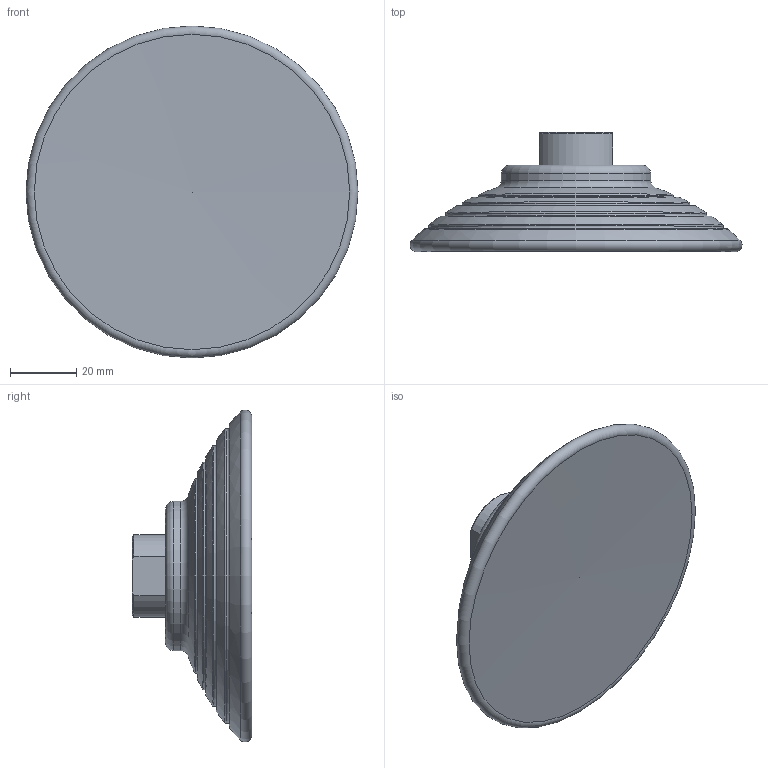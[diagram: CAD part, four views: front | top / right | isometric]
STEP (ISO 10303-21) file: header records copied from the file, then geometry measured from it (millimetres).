
FILE_DESCRIPTION((''),'2;1');
FILE_NAME('I:\Fipa\KD2\103.100.062\103.100.062_Kd.stp','2013-08-27T22:23:29',('user'),(''),'Autodesk Inventor 2012','Autodesk Inventor 2012','');
FILE_SCHEMA(('AUTOMOTIVE_DESIGN { 1 0 10303 214 1 1 1 1 }'));
Length unit declared in the file: millimetre
Products named in the file (3): 103.100.062_Kd; 103.100.062 - Elastomer_Kd; Fitting_Kd
Assembly tree (2 placements, depth 2):
  103.100.062_Kd
    103.100.062 - Elastomer_Kd
    Fitting_Kd
Bounding box: 99.99 x 35.99 x 99.99 mm (x, y, z)
Volume: 113852.6 mm3; surface area: 23167.7 mm2
Topology: 2 solids, 2 shells, 52 faces, 103 edges, 62 vertices
Faces by surface type: torus 21, plane 13, cylinder 8, bspline 5, cone 5
Full cylindrical faces by diameter (mm): 8 x1, 14.95 x1, 17 x1, 30 x2, 45 x1
Entity records: 1300 total; most frequent: CARTESIAN_POINT 313, DIRECTION 212, ORIENTED_EDGE 124, AXIS2_PLACEMENT_3D 102, EDGE_LOOP 96, EDGE_CURVE 62, VERTEX_POINT 56, FACE_OUTER_BOUND 52
